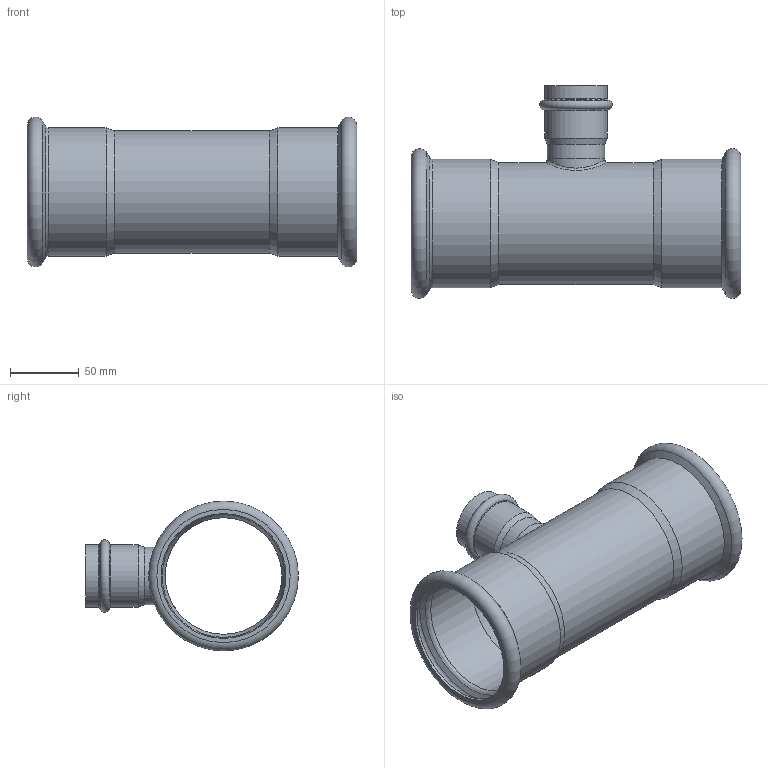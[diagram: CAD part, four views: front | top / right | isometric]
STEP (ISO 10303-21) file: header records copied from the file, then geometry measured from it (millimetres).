
FILE_DESCRIPTION((''),'2;1');
FILE_NAME('G:\Nirosan-Schmiedefeld\Technics\CAD\Bauteile VA\089\69130894289(2).stp','2009-11-04T14:37:10',('herberg'),(''),'Autodesk Inventor 2009','Autodesk Inventor 2009','');
FILE_SCHEMA(('AUTOMOTIVE_DESIGN { 1 0 10303 214 1 1 1 1 }'));
Length unit declared in the file: millimetre
Products named in the file (3): 69130894289(2); LM_69130894289(1); HM_6924342(2)
Assembly tree (2 placements, depth 2):
  69130894289(2)
    LM_69130894289(1)
    HM_6924342(2)
Bounding box: 240 x 155 x 109.1 mm (x, y, z)
Volume: 158273.4 mm3; surface area: 163996.9 mm2
Topology: 2 solids, 2 shells, 49 faces, 101 edges, 58 vertices
Faces by surface type: cylinder 16, cone 12, bspline 8, plane 7, torus 6
Full cylindrical faces by diameter (mm): 38 x1, 39 x1, 42 x2, 42.3 x2, 45.3 x2, 84.9 x1, 88.9 x1, 89.5 x2, 91 x2, 93.5 x2
Entity records: 2942 total; most frequent: CARTESIAN_POINT 2043, DIRECTION 186, ORIENTED_EDGE 104, EDGE_LOOP 98, AXIS2_PLACEMENT_3D 93, EDGE_CURVE 52, VERTEX_POINT 50, FACE_OUTER_BOUND 49
